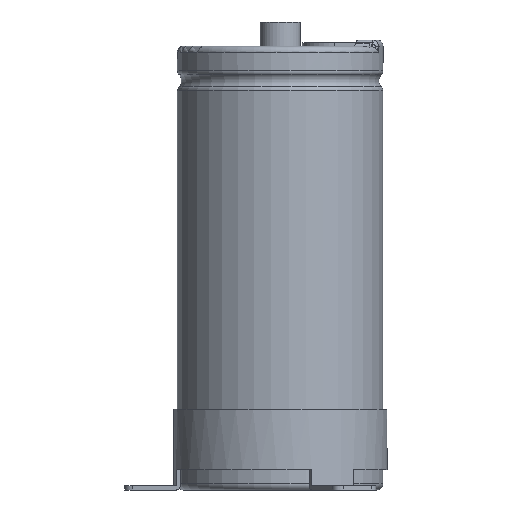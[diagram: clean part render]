
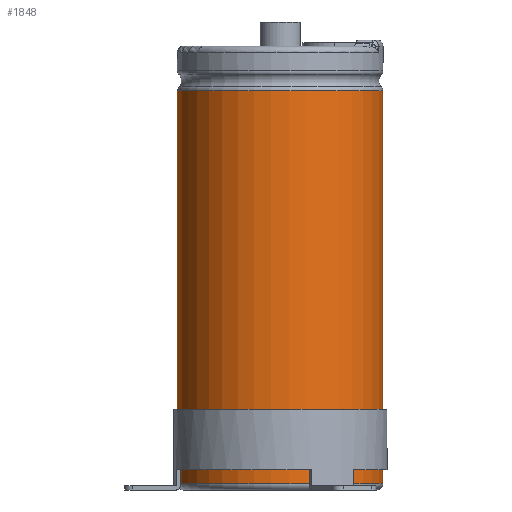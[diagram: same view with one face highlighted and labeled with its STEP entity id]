
A CAD part, front view. The second image highlights one B-rep face of the part: STEP entity #1848.
In plain terms, the highlighted cylindrical face has radius 25.5 mm (diameter 51 mm), a partial arc.
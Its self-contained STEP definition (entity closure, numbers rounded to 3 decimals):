
#370=LINE('',#9285,#608);
#371=LINE('',#9289,#609);
#608=VECTOR('',#6925,1.);
#609=VECTOR('',#6928,1.);
#1457=FACE_OUTER_BOUND('',#2362,.T.);
#1848=ADVANCED_FACE('',(#1457),#1998,.T.);
#1998=CYLINDRICAL_SURFACE('',#5769,25.5);
#2362=EDGE_LOOP('',(#3435,#3436,#3437,#3438));
#3435=ORIENTED_EDGE('',*,*,#4849,.T.);
#3436=ORIENTED_EDGE('',*,*,#4850,.T.);
#3437=ORIENTED_EDGE('',*,*,#4851,.F.);
#3438=ORIENTED_EDGE('',*,*,#4852,.F.);
#4222=VERTEX_POINT('',#9278);
#4224=VERTEX_POINT('',#9282);
#4225=VERTEX_POINT('',#9286);
#4226=VERTEX_POINT('',#9288);
#4849=EDGE_CURVE('',#4222,#4224,#5258,.T.);
#4850=EDGE_CURVE('',#4224,#4225,#370,.T.);
#4851=EDGE_CURVE('',#4226,#4225,#5259,.T.);
#4852=EDGE_CURVE('',#4222,#4226,#371,.T.);
#5258=CIRCLE('',#5766,25.5);
#5259=CIRCLE('',#5768,25.5);
#5766=AXIS2_PLACEMENT_3D('',#9283,#6921,#6922);
#5768=AXIS2_PLACEMENT_3D('',#9287,#6926,#6927);
#5769=AXIS2_PLACEMENT_3D('',#9290,#6929,#6930);
#6921=DIRECTION('',(0.,0.,-1.));
#6922=DIRECTION('',(0.,1.,0.));
#6925=DIRECTION('',(0.,0.,-1.));
#6926=DIRECTION('',(0.,0.,-1.));
#6927=DIRECTION('',(0.,1.,0.));
#6928=DIRECTION('',(0.,0.,-1.));
#6929=DIRECTION('',(0.,0.,-1.));
#6930=DIRECTION('',(0.,1.,0.));
#9278=CARTESIAN_POINT('',(3.989,25.186,98.9));
#9282=CARTESIAN_POINT('',(-3.989,25.186,98.9));
#9283=CARTESIAN_POINT('',(0.,0.,98.9));
#9285=CARTESIAN_POINT('',(-3.989,25.186,98.9));
#9286=CARTESIAN_POINT('',(-3.989,25.186,1.5));
#9287=CARTESIAN_POINT('',(0.,0.,1.5));
#9288=CARTESIAN_POINT('',(3.989,25.186,1.5));
#9289=CARTESIAN_POINT('',(3.989,25.186,98.9));
#9290=CARTESIAN_POINT('',(0.,0.,0.));
